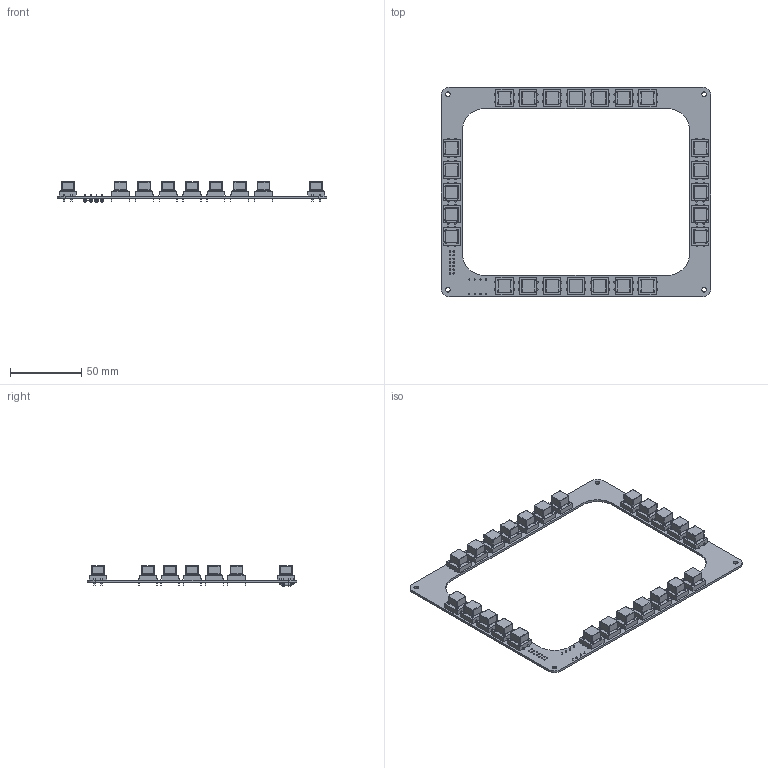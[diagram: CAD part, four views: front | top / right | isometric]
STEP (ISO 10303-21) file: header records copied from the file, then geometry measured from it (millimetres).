
FILE_DESCRIPTION(('KiCad electronic assembly'),'2;1');
FILE_NAME('mfd-pcb.step','2021-01-20T10:37:49',('An Author'),( 'A Company'),'Open CASCADE STEP processor 6.9', 'KiCad to STEP converter','Unknown');
FILE_SCHEMA(('AUTOMOTIVE_DESIGN { 1 0 10303 214 1 1 1 1 }'));
Length unit declared in the file: millimetre
Products named in the file (6): Open CASCADE STEP translator 6.9 1; b3f-4055_v2; COMPOUND; R_Axial_DIN0207_L6.3mm_D2.5mm_P10.16mm_Horizontal; SOLID
Assembly tree (31 placements, depth 3):
  Open CASCADE STEP translator 6.9 1
    b3f-4055_v2  x24
      COMPOUND
    R_Axial_DIN0207_L6.3mm_D2.5mm_P10.16mm_Horizontal  x4
      SOLID
    COMPOUND
Bounding box: 189.2 x 146.73 x 14.2 mm (x, y, z)
Volume: 37516.8 mm3; surface area: 48217.5 mm2
Topology: 77 solids, 77 shells, 2608 faces, 6210 edges, 4132 vertices
Faces by surface type: plane 1978, cylinder 614, torus 16
Full cylindrical faces by diameter (mm): 0.6 x16, 0.8 x8, 1 x14, 1.25 x96, 1.6 x144, 1.8 x24, 1.85 x48, 2.25 x4, 2.5 x8, 3.2 x4, 7.1 x48
Entity records: 23255 total; most frequent: CARTESIAN_POINT 4617, DIRECTION 3444, ORIENTED_EDGE 1632, PCURVE 1632, DEFINITIONAL_REPRESENTATION 1632, LINE 1604, VECTOR 1604, EDGE_CURVE 816
